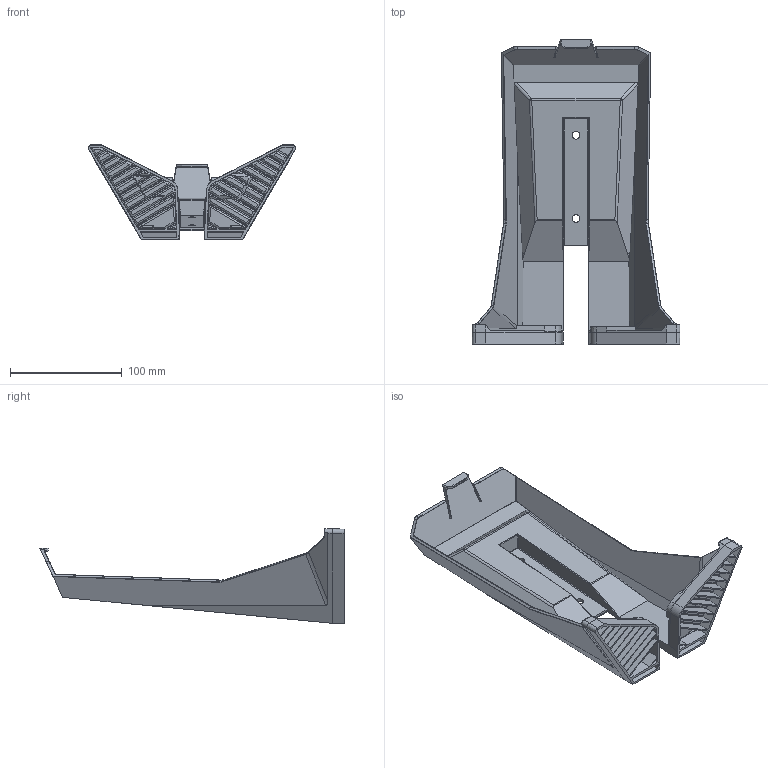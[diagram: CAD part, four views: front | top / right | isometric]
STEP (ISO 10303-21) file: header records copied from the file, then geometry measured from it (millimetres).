
FILE_DESCRIPTION(/* description */ (''),/* implementation_level */ '2;1');
FILE_NAME(/* name */ 'Flat High Performance Wi-Fi Mount.stp',/* time_stamp */ '2022-10-13T13:20:56-07:00',/* author */ (''),/* organization */ (''),/* preprocessor_version */ 'ST-DEVELOPER v18.102',/* originating_system */ 'SIEMENS PLM Software NX 2023',/* authorisation */ '');
FILE_SCHEMA (('AUTOMOTIVE_DESIGN { 1 0 10303 214 3 1 1 1 }'));
Length unit declared in the file: inch
Products named in the file (1): 06512003-523_A
Bounding box: 186 x 272.64 x 84.47 mm (x, y, z)
Volume: 198796.2 mm3; surface area: 174476.9 mm2
Topology: 1 solids, 1 shells, 1390 faces, 3373 edges, 2064 vertices
Faces by surface type: plane 1174, cylinder 122, bspline 76, sphere 8, cone 6, extrusion 4
Entity records: 40617 total; most frequent: CARTESIAN_POINT 8410, ORIENTED_EDGE 6720, DIRECTION 6243, EDGE_CURVE 3360, VECTOR 2967, LINE 2963, VERTEX_POINT 2064, AXIS2_PLACEMENT_3D 1638
